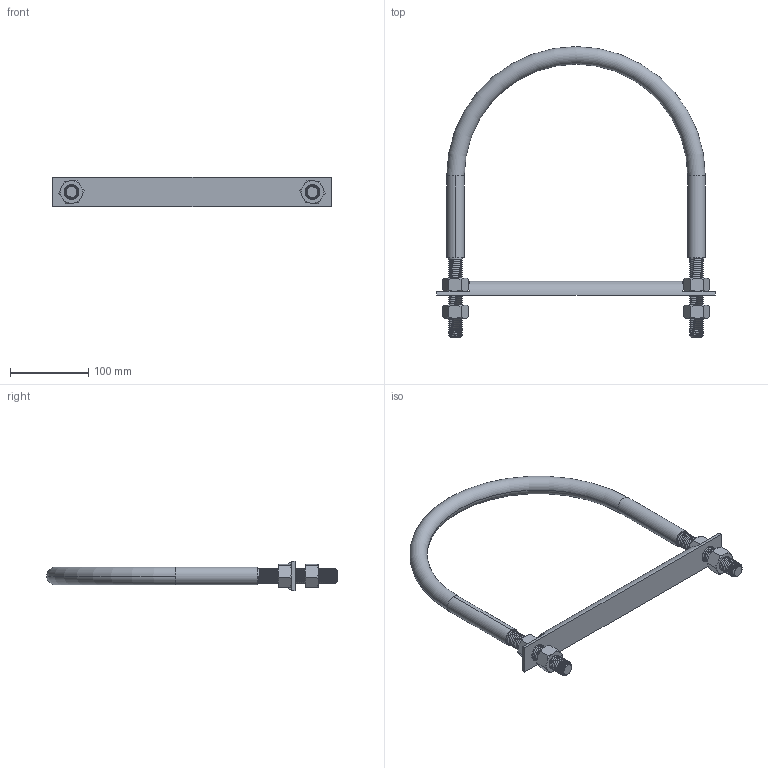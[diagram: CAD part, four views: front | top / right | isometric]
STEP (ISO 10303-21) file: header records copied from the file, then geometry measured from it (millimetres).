
FILE_DESCRIPTION (( 'STEP AP214' ), '1' );
FILE_NAME ('NUB1471.STEP', '2022-04-04T17:17:51', ( '' ), ( '' ), 'SwSTEP 2.0', 'SolidWorks 2021', '' );
FILE_SCHEMA (( 'AUTOMOTIVE_DESIGN' ));
Length unit declared in the file: inch
Products named in the file (4): ROD0645_IR18-10 [ROD0645]; NUB1471; FAS0048; UBT0998_UBT18-10-0.75-10 XL [NUB1471]
Assembly tree (6 placements, depth 2):
  NUB1471
    FAS0048  x4
    UBT0998_UBT18-10-0.75-10 XL [NUB1471]
    ROD0645_IR18-10 [ROD0645]
Bounding box: 355.6 x 371.57 x 38.02 mm (x, y, z)
Volume: 452172.1 mm3; surface area: 201064.4 mm2
Topology: 7 solids, 7 shells, 315 faces, 818 edges, 517 vertices
Faces by surface type: cylinder 186, cone 74, plane 45, torus 6, bspline 4
Entity records: 18375 total; most frequent: CARTESIAN_POINT 13109, ORIENTED_EDGE 1264, DIRECTION 824, EDGE_CURVE 632, VERTEX_POINT 412, AXIS2_PLACEMENT_3D 308, EDGE_LOOP 236, FACE_OUTER_BOUND 228
